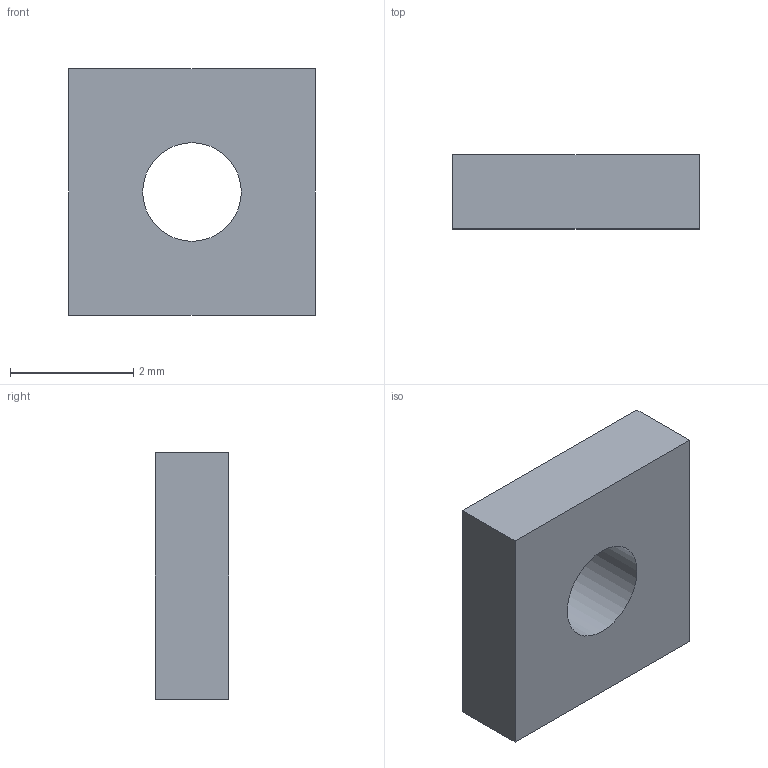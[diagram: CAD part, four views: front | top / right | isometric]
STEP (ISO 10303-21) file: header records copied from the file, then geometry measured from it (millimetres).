
FILE_DESCRIPTION(('Open CASCADE Model'),'2;1');
FILE_NAME('PTT_MOUNT_CROSSBAR_-31','2026-09-06T11:49:22',('Author'),( 'Open CASCADE'),'Open CASCADE STEP processor 7.8','build123d', 'Unknown');
FILE_SCHEMA(('AUTOMOTIVE_DESIGN { 1 0 10303 214 1 1 1 1 }'));
Length unit declared in the file: millimetre
Products named in the file (1): PTT_MOUNT_CROSSBAR_-31
Bounding box: 4 x 1.2 x 4 mm (x, y, z)
Volume: 16.8 mm3; surface area: 53.2 mm2
Topology: 1 solids, 1 shells, 7 faces, 15 edges, 10 vertices
Faces by surface type: plane 6, cylinder 1
Full cylindrical faces by diameter (mm): 1.6 x1
Entity records: 406 total; most frequent: CARTESIAN_POINT 75, DIRECTION 61, LINE 41, VECTOR 41, ORIENTED_EDGE 30, PCURVE 30, DEFINITIONAL_REPRESENTATION 30, EDGE_CURVE 15
